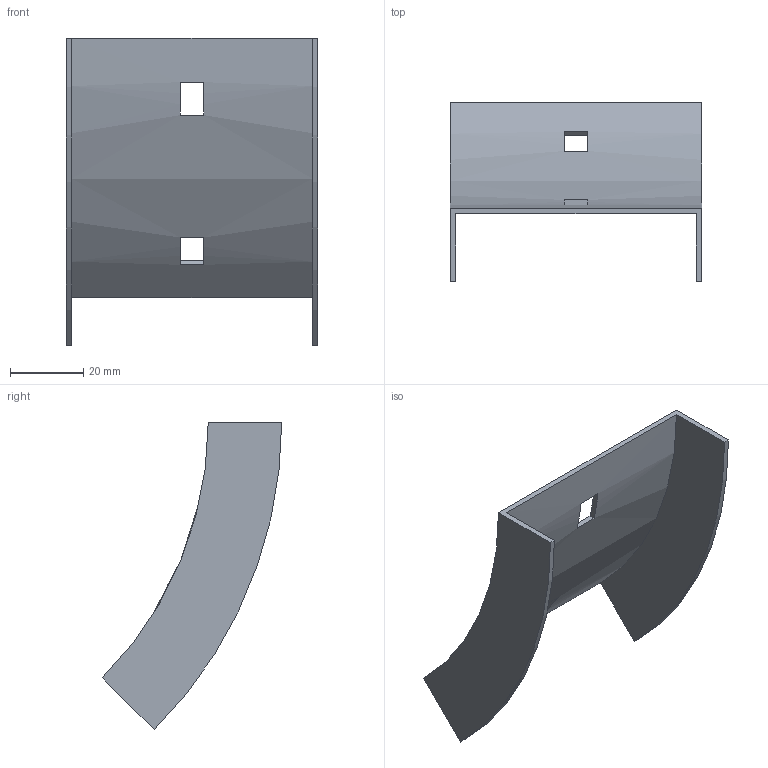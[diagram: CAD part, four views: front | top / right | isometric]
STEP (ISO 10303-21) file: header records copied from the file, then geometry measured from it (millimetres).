
FILE_DESCRIPTION (( 'STEP AP214' ), '1' );
FILE_NAME ('31N1R065.step', '2025-02-21T09:22:48', ( '' ), ( '' ), 'SwSTEP 2.0', 'SolidWorks 2023', '' );
FILE_SCHEMA (( 'AUTOMOTIVE_DESIGN' ));
Length unit declared in the file: millimetre
Products named in the file (1): 31N1R065
Bounding box: 68.5 x 48.85 x 83.79 mm (x, y, z)
Volume: 12593.6 mm3; surface area: 17479.7 mm2
Topology: 1 solids, 1 shells, 18 faces, 48 edges, 32 vertices
Faces by surface type: plane 14, cylinder 4
Entity records: 599 total; most frequent: DIRECTION 102, CARTESIAN_POINT 99, ORIENTED_EDGE 96, EDGE_CURVE 48, AXIS2_PLACEMENT_3D 35, VECTOR 32, LINE 32, VERTEX_POINT 32
